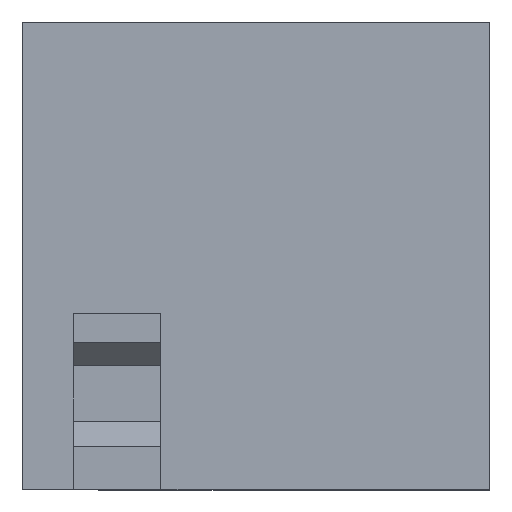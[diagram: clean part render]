
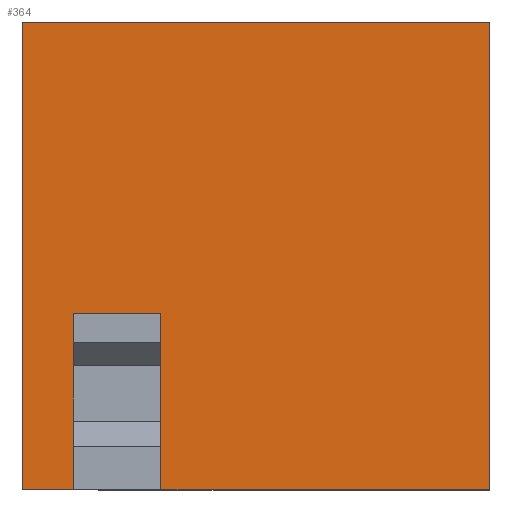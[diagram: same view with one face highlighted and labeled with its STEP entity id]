
A CAD part, top view. The second image highlights one B-rep face of the part: STEP entity #364.
In plain terms, the highlighted planar face has unit normal (0, 0, 1).
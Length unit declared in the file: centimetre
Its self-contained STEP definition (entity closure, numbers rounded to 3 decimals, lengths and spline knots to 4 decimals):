
#11 = PLANE ( 'NONE',  #769 ) ;
#13 = CARTESIAN_POINT ( 'NONE',  ( 109.6722, 376.0727, 1000. ) ) ;
#20 = VERTEX_POINT ( 'NONE', #158 ) ;
#51 = VECTOR ( 'NONE', #181, 100. ) ;
#73 = VERTEX_POINT ( 'NONE', #635 ) ;
#74 = LINE ( 'NONE', #532, #231 ) ;
#76 = ORIENTED_EDGE ( 'NONE', *, *, #882, .T. ) ;
#86 = EDGE_CURVE ( 'NONE', #861, #618, #802, .T. ) ;
#90 = VECTOR ( 'NONE', #827, 100. ) ;
#101 = CARTESIAN_POINT ( 'NONE',  ( 0., 0., 1000. ) ) ;
#119 = VECTOR ( 'NONE', #150, 100. ) ;
#120 = CARTESIAN_POINT ( 'NONE',  ( 0., 1000., 1000. ) ) ;
#127 = CARTESIAN_POINT ( 'NONE',  ( 296.669, 376.0727, 1000. ) ) ;
#143 = DIRECTION ( 'NONE',  ( -1., 0., 0. ) ) ;
#150 = DIRECTION ( 'NONE',  ( 0., -1., 0. ) ) ;
#157 = DIRECTION ( 'NONE',  ( 1., 0., 0. ) ) ;
#158 = CARTESIAN_POINT ( 'NONE',  ( 1000., 0., 1000. ) ) ;
#160 = ORIENTED_EDGE ( 'NONE', *, *, #888, .T. ) ;
#175 = ORIENTED_EDGE ( 'NONE', *, *, #898, .T. ) ;
#181 = DIRECTION ( 'NONE',  ( -1., 0., 0. ) ) ;
#211 = ORIENTED_EDGE ( 'NONE', *, *, #86, .F. ) ;
#213 = LINE ( 'NONE', #455, #1012 ) ;
#231 = VECTOR ( 'NONE', #143, 100. ) ;
#364 = ADVANCED_FACE ( 'NONE', ( #960 ), #11, .T. ) ;
#379 = CARTESIAN_POINT ( 'NONE',  ( 296.669, 0., 1000. ) ) ;
#387 = EDGE_LOOP ( 'NONE', ( #211, #632, #942, #76, #952, #160, #175, #779 ) ) ;
#402 = CARTESIAN_POINT ( 'NONE',  ( 0., 1000., 1000. ) ) ;
#431 = EDGE_CURVE ( 'NONE', #626, #568, #436, .T. ) ;
#436 = LINE ( 'NONE', #127, #90 ) ;
#445 = CARTESIAN_POINT ( 'NONE',  ( 296.669, 376.0727, 1000. ) ) ;
#455 = CARTESIAN_POINT ( 'NONE',  ( 1000., 1000., 1000. ) ) ;
#461 = LINE ( 'NONE', #938, #119 ) ;
#487 = VECTOR ( 'NONE', #995, 100. ) ;
#492 = DIRECTION ( 'NONE',  ( 1., 0., 0. ) ) ;
#499 = EDGE_CURVE ( 'NONE', #626, #861, #74, .T. ) ;
#532 = CARTESIAN_POINT ( 'NONE',  ( 109.6722, 376.0727, 1000. ) ) ;
#568 = VERTEX_POINT ( 'NONE', #379 ) ;
#603 = CARTESIAN_POINT ( 'NONE',  ( 0., 0., 1000. ) ) ;
#615 = EDGE_CURVE ( 'NONE', #20, #73, #213, .T. ) ;
#618 = VERTEX_POINT ( 'NONE', #842 ) ;
#619 = VERTEX_POINT ( 'NONE', #603 ) ;
#626 = VERTEX_POINT ( 'NONE', #445 ) ;
#632 = ORIENTED_EDGE ( 'NONE', *, *, #499, .F. ) ;
#634 = LINE ( 'NONE', #101, #670 ) ;
#635 = CARTESIAN_POINT ( 'NONE',  ( 1000., 1000., 1000. ) ) ;
#639 = CARTESIAN_POINT ( 'NONE',  ( 0., 0., 1000. ) ) ;
#670 = VECTOR ( 'NONE', #157, 100. ) ;
#682 = LINE ( 'NONE', #901, #487 ) ;
#747 = CARTESIAN_POINT ( 'NONE',  ( 109.6722, 376.0727, 1000. ) ) ;
#748 = DIRECTION ( 'NONE',  ( 0., 0., 1. ) ) ;
#755 = VECTOR ( 'NONE', #811, 100. ) ;
#769 = AXIS2_PLACEMENT_3D ( 'NONE', #639, #748, #492 ) ;
#779 = ORIENTED_EDGE ( 'NONE', *, *, #1010, .T. ) ;
#785 = DIRECTION ( 'NONE',  ( 0., 1., 0. ) ) ;
#802 = LINE ( 'NONE', #13, #755 ) ;
#811 = DIRECTION ( 'NONE',  ( 0., -1., 0. ) ) ;
#823 = LINE ( 'NONE', #120, #51 ) ;
#827 = DIRECTION ( 'NONE',  ( 0., -1., 0. ) ) ;
#842 = CARTESIAN_POINT ( 'NONE',  ( 109.6722, 0., 1000. ) ) ;
#861 = VERTEX_POINT ( 'NONE', #747 ) ;
#882 = EDGE_CURVE ( 'NONE', #568, #20, #682, .T. ) ;
#888 = EDGE_CURVE ( 'NONE', #73, #956, #823, .T. ) ;
#898 = EDGE_CURVE ( 'NONE', #956, #619, #461, .T. ) ;
#901 = CARTESIAN_POINT ( 'NONE',  ( 0., 0., 1000. ) ) ;
#938 = CARTESIAN_POINT ( 'NONE',  ( 0., 1000., 1000. ) ) ;
#942 = ORIENTED_EDGE ( 'NONE', *, *, #431, .T. ) ;
#952 = ORIENTED_EDGE ( 'NONE', *, *, #615, .T. ) ;
#956 = VERTEX_POINT ( 'NONE', #402 ) ;
#960 = FACE_OUTER_BOUND ( 'NONE', #387, .T. ) ;
#995 = DIRECTION ( 'NONE',  ( 1., 0., 0. ) ) ;
#1010 = EDGE_CURVE ( 'NONE', #619, #618, #634, .T. ) ;
#1012 = VECTOR ( 'NONE', #785, 100. ) ;
